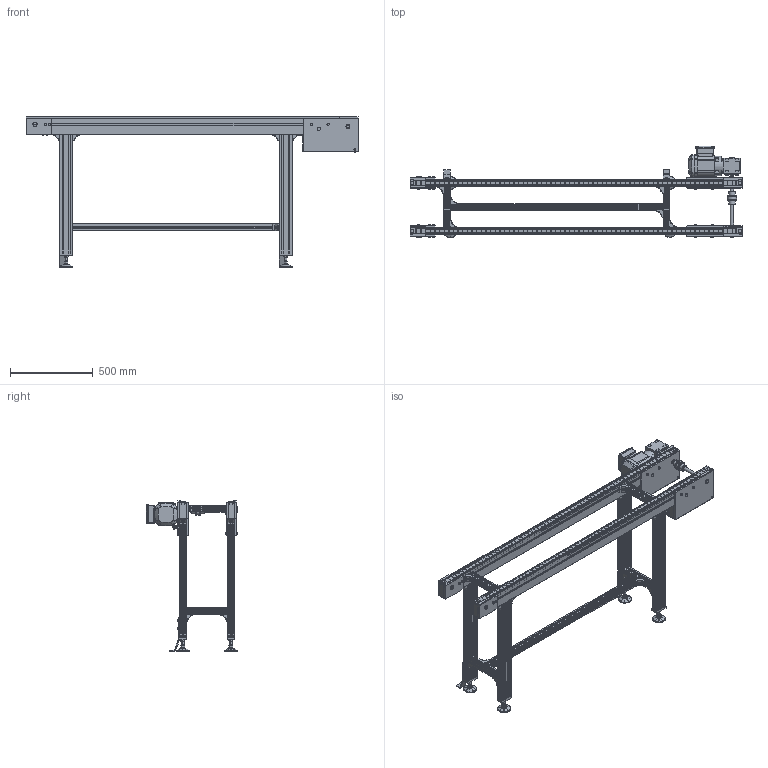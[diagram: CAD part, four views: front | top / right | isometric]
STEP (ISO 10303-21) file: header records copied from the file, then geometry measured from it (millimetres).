
FILE_DESCRIPTION(/* description */ (''),/* implementation_level */ '2;1');
FILE_NAME(/* name */ 'C:\Marketing\01_Versamove-SPU_STEP-Dateien-Homepage\VersamoveStandard\B320\STEP-Dateien\Flachplattenförderer_FPF-P-2045_B320_L2000.stp',/* time_stamp */ '2016-12-19T15:19:42+01:00',/* author */ ('herbert.engels'),/* organization */ (''),/* preprocessor_version */ 'ST-DEVELOPER v15.6',/* originating_system */ 'Autodesk Inventor 2015',/* authorisation */ '');
FILE_SCHEMA (('CONFIG_CONTROL_DESIGN'));
Products named in the file (1): Flachplattenförderer_FPF-P-2045_B320_L2000
Bounding box: 2000.5 x 550.57 x 905.3 mm (x, y, z)
Volume: 27024406.6 mm3; surface area: 6097885.8 mm2
Topology: 5 solids, 5 shells, 5814 faces, 16328 edges, 10438 vertices
Faces by surface type: plane 3959, cylinder 1321, cone 345, torus 123, sphere 50, bspline 16
Full cylindrical faces by diameter (mm): 2 x8, 6 x12, 6.647 x8, 7.323 x4, 8 x61, 8.7 x4, 9 x8, 10 x4, 10.066 x1, 11.4 x20, 12 x8, 13 x70, 13.6 x8, 14 x40, 15 x8, 18 x4, 19 x4, 19.77 x4, 20 x17, 25 x1, 25.05 x4, 28 x1, 30 x2, 40 x2, 53 x1, 54 x2, 56 x3, 79 x4, 117 x1
Entity records: 192416 total; most frequent: CARTESIAN_POINT 37563, ORIENTED_EDGE 31388, DIRECTION 29735, EDGE_CURVE 15687, LINE 11467, VECTOR 11467, VERTEX_POINT 10282, AXIS2_PLACEMENT_3D 9134
